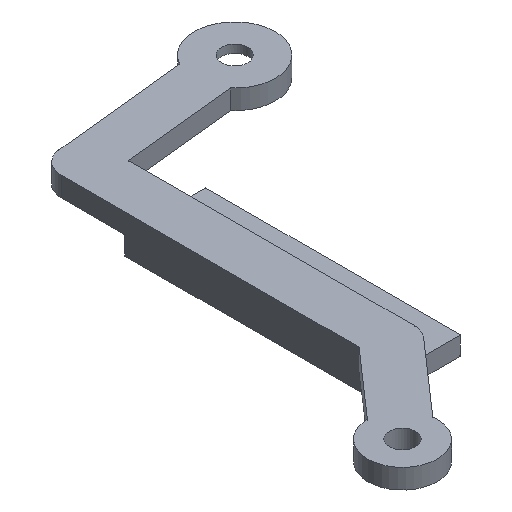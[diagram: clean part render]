
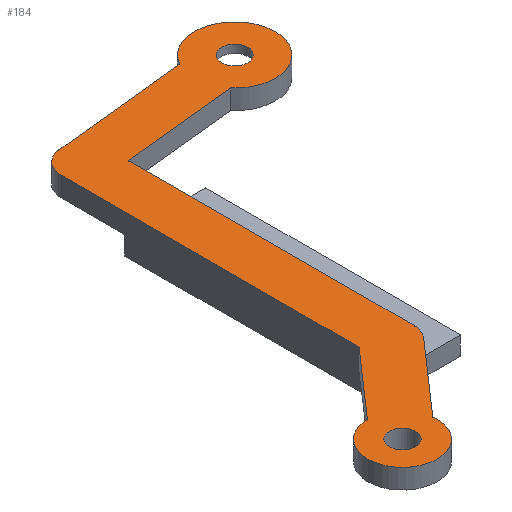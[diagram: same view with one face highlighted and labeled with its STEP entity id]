
A CAD part, isometric view. The second image highlights one B-rep face of the part: STEP entity #184.
In plain terms, the highlighted planar face has unit normal (0, 0, 1).
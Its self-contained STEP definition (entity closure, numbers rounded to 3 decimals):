
#32 = VERTEX_POINT('',#33);
#33 = CARTESIAN_POINT('',(-31.522,69.366,67.7));
#39 = EDGE_CURVE('',#32,#40,#42,.T.);
#40 = VERTEX_POINT('',#41);
#41 = CARTESIAN_POINT('',(-25.995,75.683,67.7));
#42 = LINE('',#43,#44);
#43 = CARTESIAN_POINT('',(-32.995,67.683,67.7));
#44 = VECTOR('',#45,1.);
#45 = DIRECTION('',(0.659,0.753,0.));
#146 = EDGE_CURVE('',#147,#40,#149,.T.);
#147 = VERTEX_POINT('',#148);
#148 = CARTESIAN_POINT('',(-25.5,77.,67.7));
#149 = CIRCLE('',#150,2.);
#150 = AXIS2_PLACEMENT_3D('',#151,#152,#153);
#151 = CARTESIAN_POINT('',(-27.5,77.,67.7));
#152 = DIRECTION('',(0.,0.,-1.));
#153 = DIRECTION('',(-1.,-0.,-0.));
#184 = ADVANCED_FACE('',(#185,#263,#274),#285,.T.);
#185 = FACE_BOUND('',#186,.F.);
#186 = EDGE_LOOP('',(#187,#197,#205,#214,#222,#231,#239,#245,#246,#247,
    #256));
#187 = ORIENTED_EDGE('',*,*,#188,.F.);
#188 = EDGE_CURVE('',#189,#191,#193,.T.);
#189 = VERTEX_POINT('',#190);
#190 = CARTESIAN_POINT('',(-29.5,77.751,67.7));
#191 = VERTEX_POINT('',#192);
#192 = CARTESIAN_POINT('',(-34.533,72.,67.7));
#193 = LINE('',#194,#195);
#194 = CARTESIAN_POINT('',(-29.005,78.317,67.7));
#195 = VECTOR('',#196,1.);
#196 = DIRECTION('',(-0.659,-0.753,-0.));
#197 = ORIENTED_EDGE('',*,*,#198,.F.);
#198 = EDGE_CURVE('',#199,#189,#201,.T.);
#199 = VERTEX_POINT('',#200);
#200 = CARTESIAN_POINT('',(-29.5,103.5,67.7));
#201 = LINE('',#202,#203);
#202 = CARTESIAN_POINT('',(-29.5,103.5,67.7));
#203 = VECTOR('',#204,1.);
#204 = DIRECTION('',(-0.,-1.,-0.));
#205 = ORIENTED_EDGE('',*,*,#206,.T.);
#206 = EDGE_CURVE('',#199,#207,#209,.T.);
#207 = VERTEX_POINT('',#208);
#208 = CARTESIAN_POINT('',(-27.706,105.489,67.7));
#209 = CIRCLE('',#210,2.);
#210 = AXIS2_PLACEMENT_3D('',#211,#212,#213);
#211 = CARTESIAN_POINT('',(-27.5,103.5,67.7));
#212 = DIRECTION('',(0.,0.,-1.));
#213 = DIRECTION('',(-1.,-0.,-0.));
#214 = ORIENTED_EDGE('',*,*,#215,.F.);
#215 = EDGE_CURVE('',#216,#207,#218,.T.);
#216 = VERTEX_POINT('',#217);
#217 = CARTESIAN_POINT('',(-16.063,106.694,67.7));
#218 = LINE('',#219,#220);
#219 = CARTESIAN_POINT('',(-13.206,106.989,67.7));
#220 = VECTOR('',#221,1.);
#221 = DIRECTION('',(-0.995,-0.103,-0.));
#222 = ORIENTED_EDGE('',*,*,#223,.T.);
#223 = EDGE_CURVE('',#216,#224,#226,.T.);
#224 = VERTEX_POINT('',#225);
#225 = CARTESIAN_POINT('',(-15.651,102.715,67.7));
#226 = CIRCLE('',#227,3.5);
#227 = AXIS2_PLACEMENT_3D('',#228,#229,#230);
#228 = CARTESIAN_POINT('',(-13.,105.,67.7));
#229 = DIRECTION('',(0.,0.,-1.));
#230 = DIRECTION('',(-1.,-0.,-0.));
#231 = ORIENTED_EDGE('',*,*,#232,.F.);
#232 = EDGE_CURVE('',#233,#224,#235,.T.);
#233 = VERTEX_POINT('',#234);
#234 = CARTESIAN_POINT('',(-25.5,101.696,67.7));
#235 = LINE('',#236,#237);
#236 = CARTESIAN_POINT('',(-27.294,101.511,67.7));
#237 = VECTOR('',#238,1.);
#238 = DIRECTION('',(0.995,0.103,0.));
#239 = ORIENTED_EDGE('',*,*,#240,.F.);
#240 = EDGE_CURVE('',#147,#233,#241,.T.);
#241 = LINE('',#242,#243);
#242 = CARTESIAN_POINT('',(-25.5,77.,67.7));
#243 = VECTOR('',#244,1.);
#244 = DIRECTION('',(0.,1.,0.));
#245 = ORIENTED_EDGE('',*,*,#146,.T.);
#246 = ORIENTED_EDGE('',*,*,#39,.F.);
#247 = ORIENTED_EDGE('',*,*,#248,.T.);
#248 = EDGE_CURVE('',#32,#249,#251,.T.);
#249 = VERTEX_POINT('',#250);
#250 = CARTESIAN_POINT('',(-37.5,69.,67.7));
#251 = CIRCLE('',#252,3.);
#252 = AXIS2_PLACEMENT_3D('',#253,#254,#255);
#253 = CARTESIAN_POINT('',(-34.5,69.,67.7));
#254 = DIRECTION('',(0.,0.,-1.));
#255 = DIRECTION('',(-1.,-0.,-0.));
#256 = ORIENTED_EDGE('',*,*,#257,.T.);
#257 = EDGE_CURVE('',#249,#191,#258,.T.);
#258 = CIRCLE('',#259,3.);
#259 = AXIS2_PLACEMENT_3D('',#260,#261,#262);
#260 = CARTESIAN_POINT('',(-34.5,69.,67.7));
#261 = DIRECTION('',(0.,0.,-1.));
#262 = DIRECTION('',(-1.,-0.,-0.));
#263 = FACE_BOUND('',#264,.F.);
#264 = EDGE_LOOP('',(#265));
#265 = ORIENTED_EDGE('',*,*,#266,.T.);
#266 = EDGE_CURVE('',#267,#267,#269,.T.);
#267 = VERTEX_POINT('',#268);
#268 = CARTESIAN_POINT('',(-33.35,69.,67.7));
#269 = CIRCLE('',#270,1.15);
#270 = AXIS2_PLACEMENT_3D('',#271,#272,#273);
#271 = CARTESIAN_POINT('',(-34.5,69.,67.7));
#272 = DIRECTION('',(0.,0.,1.));
#273 = DIRECTION('',(1.,0.,0.));
#274 = FACE_BOUND('',#275,.F.);
#275 = EDGE_LOOP('',(#276));
#276 = ORIENTED_EDGE('',*,*,#277,.T.);
#277 = EDGE_CURVE('',#278,#278,#280,.T.);
#278 = VERTEX_POINT('',#279);
#279 = CARTESIAN_POINT('',(-11.85,105.,67.7));
#280 = CIRCLE('',#281,1.15);
#281 = AXIS2_PLACEMENT_3D('',#282,#283,#284);
#282 = CARTESIAN_POINT('',(-13.,105.,67.7));
#283 = DIRECTION('',(0.,0.,1.));
#284 = DIRECTION('',(1.,0.,0.));
#285 = PLANE('',#286);
#286 = AXIS2_PLACEMENT_3D('',#287,#288,#289);
#287 = CARTESIAN_POINT('',(-25.719,90.057,67.7));
#288 = DIRECTION('',(0.,0.,1.));
#289 = DIRECTION('',(1.,0.,0.));
